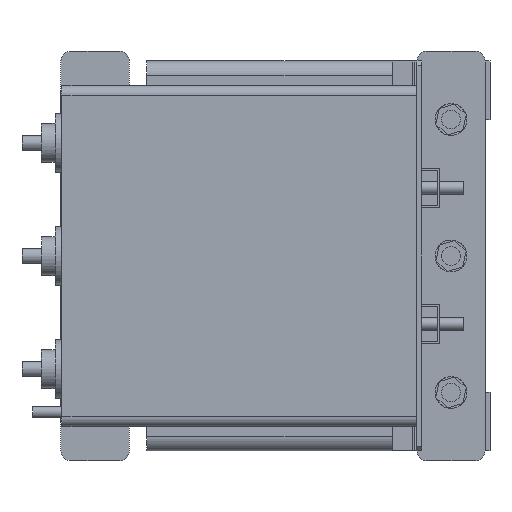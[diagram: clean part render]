
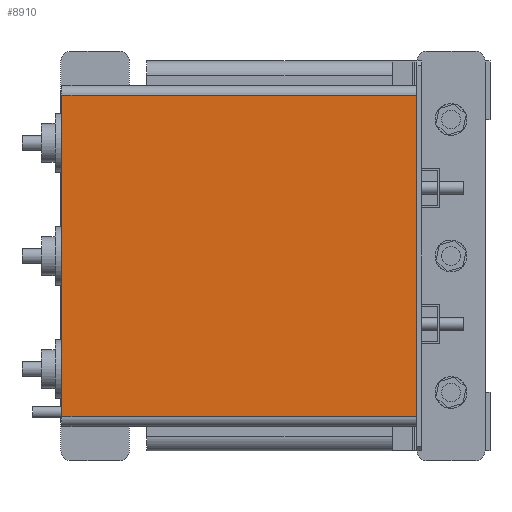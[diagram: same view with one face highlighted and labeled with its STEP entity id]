
A CAD part, left-side view. The second image highlights one B-rep face of the part: STEP entity #8910.
In plain terms, the highlighted planar face has unit normal (-1, 0, 0).
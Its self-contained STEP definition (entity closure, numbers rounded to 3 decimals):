
#397=PLANE('',#9735);
#923=FACE_OUTER_BOUND('',#1512,.T.);
#1512=EDGE_LOOP('',(#7305,#7306,#7307,#7308));
#2232=LINE('',#14028,#3185);
#2267=LINE('',#14120,#3220);
#2268=LINE('',#14123,#3221);
#2269=LINE('',#14124,#3222);
#3185=VECTOR('',#11504,10.);
#3220=VECTOR('',#11595,10.);
#3221=VECTOR('',#11598,10.);
#3222=VECTOR('',#11599,10.);
#4365=VERTEX_POINT('',#14025);
#4366=VERTEX_POINT('',#14027);
#4395=VERTEX_POINT('',#14118);
#4396=VERTEX_POINT('',#14122);
#5395=EDGE_CURVE('',#4365,#4366,#2232,.T.);
#5442=EDGE_CURVE('',#4365,#4395,#2267,.T.);
#5443=EDGE_CURVE('',#4396,#4395,#2268,.T.);
#5444=EDGE_CURVE('',#4366,#4396,#2269,.T.);
#7305=ORIENTED_EDGE('',*,*,#5395,.F.);
#7306=ORIENTED_EDGE('',*,*,#5442,.T.);
#7307=ORIENTED_EDGE('',*,*,#5443,.F.);
#7308=ORIENTED_EDGE('',*,*,#5444,.F.);
#8910=ADVANCED_FACE('',(#923),#397,.T.);
#9735=AXIS2_PLACEMENT_3D('',#14121,#11596,#11597);
#11504=DIRECTION('',(0.,0.,-1.));
#11595=DIRECTION('',(0.,1.,0.));
#11596=DIRECTION('center_axis',(-1.,0.,0.));
#11597=DIRECTION('ref_axis',(0.,0.,
1.));
#11598=DIRECTION('',(0.,0.,1.));
#11599=DIRECTION('',(0.,1.,0.));
#14025=CARTESIAN_POINT('',(-320.,-12.,165.));
#14027=CARTESIAN_POINT('',(-320.,-12.,-165.));
#14028=CARTESIAN_POINT('',(-320.,-12.,17.5));
#14118=CARTESIAN_POINT('',(-320.,352.,165.));
#14120=CARTESIAN_POINT('',(-320.,-12.,165.));
#14121=CARTESIAN_POINT('Origin',(-320.,-12.,-165.));
#14122=CARTESIAN_POINT('',(-320.,352.,-165.));
#14123=CARTESIAN_POINT('',(-320.,352.,-165.));
#14124=CARTESIAN_POINT('',(-320.,-12.,-165.));
